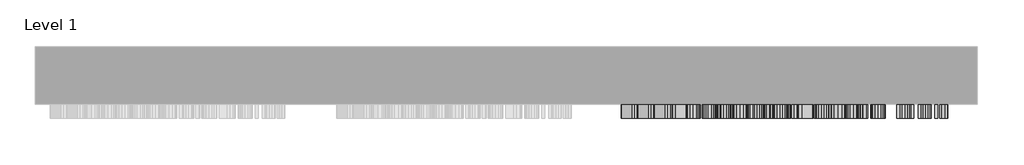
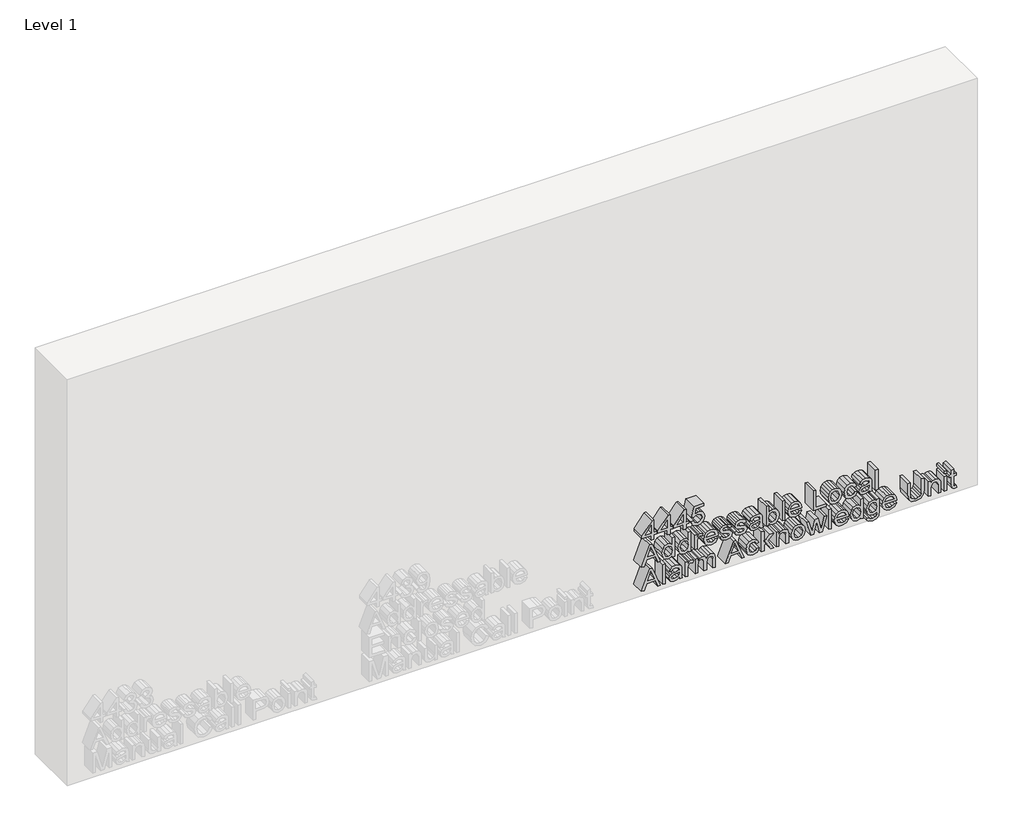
# One storey, part 3 of 3: 1 proxy.
"""IFC4 building model written with IfcOpenShell, lengths in millimetres."""

from ifc_helpers import new_model, si_unit, frame, origin, place, context, project, spatial, polyline, outline, extrude, element, save

model = new_model("IFC4")

# Units and contexts
model_context = context("Model", 3, world=origin())
ifc_project = project(units=[si_unit("LENGTHUNIT", "METRE", prefix="MILLI")], contexts=[model_context])

# Site, building, storey
site = spatial("IfcSite", under=ifc_project)
building = spatial("IfcBuilding", under=site)
storey = spatial("IfcBuildingStorey", under=building, Name="Level 1", Elevation=0.0)

# Proxy
placement = place(None, origin())
element("IfcBuildingElementProxy", 1, Name="75 mm Arial", ObjectType="75 mm Arial", at=placement, inside=storey, context=model_context, shape_type="SweptSolid", body=[
    extrude(outline(polyline([(239.699397, -2266.778732), (239.699397, -2257.3609529), (257.3577328, -2257.3609529), (257.3577328, -2247.9431738), (266.7755119, -2247.9431738), (266.7755119, -2257.3609529), (313.8644073, -2257.3609529), (313.8644073, -2264.4242872), (266.7755119, -2300.9181811), (257.3577328, -2300.9181811), (257.3577328, -2266.778732), (239.699397, -2266.778732)]), holes=[polyline([(266.7755119, -2266.778732), (266.7755119, -2289.3298983), (295.8749777, -2266.778732), (266.7755119, -2266.778732)])]), frame((0.0, 3097.8550077, 0.0), z_axis=(0.0, 1.0, 0.0), x_axis=(0.0, 0.0, 1.0)), (0.0, 0.0, 1.0), 50.0),
    extrude(outline(polyline([(239.699397, -2209.0948352), (239.699397, -2199.6770561), (257.3577328, -2199.6770561), (257.3577328, -2190.259277), (266.7755119, -2190.259277), (266.7755119, -2199.6770561), (313.8644073, -2199.6770561), (313.8644073, -2206.7403904), (266.7755119, -2243.2342843), (257.3577328, -2243.2342843), (257.3577328, -2209.0948352), (239.699397, -2209.0948352)]), holes=[polyline([(266.7755119, -2209.0948352), (266.7755119, -2231.6460015), (295.8749777, -2209.0948352), (266.7755119, -2209.0948352)])]), frame((0.0, 3097.8550077, 0.0), z_axis=(0.0, 1.0, 0.0), x_axis=(0.0, 0.0, 1.0)), (0.0, 0.0, 1.0), 50.0),
    extrude(outline(polyline([(239.699397, -2151.4109383), (239.699397, -2141.9931592), (257.3577328, -2141.9931592), (257.3577328, -2132.5753802), (266.7755119, -2132.5753802), (266.7755119, -2141.9931592), (313.8644073, -2141.9931592), (313.8644073, -2149.0564935), (266.7755119, -2185.5503875), (257.3577328, -2185.5503875), (257.3577328, -2151.4109383), (239.699397, -2151.4109383)]), holes=[polyline([(266.7755119, -2151.4109383), (266.7755119, -2173.9621046), (295.8749777, -2151.4109383), (266.7755119, -2151.4109383)])]), frame((0.0, 3097.8550077, 0.0), z_axis=(0.0, 1.0, 0.0), x_axis=(0.0, 0.0, 1.0)), (0.0, 0.0, 1.0), 50.0),
    extrude(outline(polyline([(259.7121776, -2124.3348235), (251.0738485, -2122.0378603), (244.3255131, -2116.9863806), (239.9730093, -2109.6172444), (238.5221747, -2100.3673115), (240.7800504, -2089.2756693), (247.5536776, -2080.7959893), (255.6102933, -2076.3676098), (265.0280724, -2074.8914833), (274.6757777, -2076.5308575), (282.3921026, -2081.4489799), (287.4550785, -2088.7537367), (289.1427372, -2097.5530142), (283.6980837, -2111.3301949), (304.4466282, -2107.3018871), (304.4466282, -2078.4231505), (313.8644073, -2078.4231505), (313.8644073, -2114.9170444), (275.0160686, -2123.1576011), (273.8388462, -2113.739822), (278.0878832, -2108.4515183), (279.7249581, -2100.1833705), (275.6230739, -2088.2547968), (264.4394612, -2084.3092624), (252.4557052, -2088.5215112), (247.9399537, -2100.3305233), (251.1865123, -2110.1713666), (260.8894, -2114.9170444), (259.7121776, -2124.3348235)])), frame((0.0, 3097.8550077, 0.0), z_axis=(0.0, 1.0, 0.0), x_axis=(0.0, 0.0, 1.0)), (0.0, 0.0, 1.0), 50.0),
    extrude(outline(polyline([(148.2182837, -2302.6288324), (148.2182837, -2292.6776245), (171.7627313, -2284.0691858), (171.7627313, -2253.0383395), (148.2182837, -2244.4115067), (148.2182837, -2234.4602987), (223.5605163, -2264.5346518), (223.5605163, -2272.5544793), (148.2182837, -2302.6288324)]), holes=[polyline([(181.1805104, -2280.611095), (201.3220497, -2273.235061), (214.1427372, -2268.5445656), (199.7033689, -2263.2654589), (181.1805104, -2256.4780361), (181.1805104, -2280.611095)])]), frame((0.0, 3097.8550077, 0.0), z_axis=(0.0, 1.0, 0.0), x_axis=(0.0, 0.0, 1.0)), (0.0, 0.0, 1.0), 50.0),
    extrude(outline(polyline([(148.2182837, -2191.4364994), (148.2182837, -2182.0187203), (223.5605163, -2182.0187203), (223.5605163, -2191.4364994), (195.49112, -2191.4364994), (202.1589812, -2197.635311), (204.7249581, -2206.3173261), (201.1381087, -2218.3378703), (190.8190187, -2226.4128801), (175.8278274, -2229.1076157), (160.8458331, -2226.1829538), (150.683093, -2217.9423971), (147.0410613, -2206.2805379), (149.5564544, -2197.6675007), (157.1026338, -2191.4364994), (148.2182837, -2191.4364994)]), holes=[polyline([(175.8646156, -2219.6898366), (190.6258807, -2215.7167111), (195.307179, -2205.8022913), (190.4327426, -2195.5843689), (175.1472457, -2191.4364994), (161.0665623, -2195.5107925), (156.4588403, -2205.4160152), (161.2872915, -2215.4407996), (175.8646156, -2219.6898366)])]), frame((0.0, 3097.8550077, 0.0), z_axis=(0.0, 1.0, 0.0), x_axis=(0.0, 0.0, 1.0)), (0.0, 0.0, 1.0), 50.0),
    extrude(outline(polyline([(148.2182837, -2133.7526025), (148.2182837, -2124.3348235), (223.5605163, -2124.3348235), (223.5605163, -2133.7526025), (195.49112, -2133.7526025), (202.1589812, -2139.9514142), (204.7249581, -2148.6334292), (201.1381087, -2160.6539734), (190.8190187, -2168.7289832), (175.8278274, -2171.4237188), (160.8458331, -2168.499057), (150.683093, -2160.2585003), (147.0410613, -2148.596641), (149.5564544, -2139.9836038), (157.1026338, -2133.7526025), (148.2182837, -2133.7526025)]), holes=[polyline([(175.8646156, -2162.0059398), (190.6258807, -2158.0328142), (195.307179, -2148.1183945), (190.4327426, -2137.900472), (175.1472457, -2133.7526025), (161.0665623, -2137.8268956), (156.4588403, -2147.7321184), (161.2872915, -2157.7569027), (175.8646156, -2162.0059398)])]), frame((0.0, 3097.8550077, 0.0), z_axis=(0.0, 1.0, 0.0), x_axis=(0.0, 0.0, 1.0)), (0.0, 0.0, 1.0), 50.0),
    extrude(outline(polyline([(148.2182837, -2110.2081548), (148.2182837, -2100.7903758), (177.2993554, -2100.7903758), (188.299027, -2099.2636655), (193.449375, -2095.8699541), (195.307179, -2090.5448622), (193.3757986, -2083.9229863), (201.8186904, -2080.7775952), (204.7249581, -2090.2321625), (202.9039422, -2096.1182744), (195.3623613, -2101.9675982), (203.5477357, -2101.9675982), (203.5477357, -2110.2081548), (148.2182837, -2110.2081548)])), frame((0.0, 3097.8550077, 0.0), z_axis=(0.0, 1.0, 0.0), x_axis=(0.0, 0.0, 1.0)), (0.0, 0.0, 1.0), 50.0),
    extrude(outline(polyline([(164.699397, -2036.1535092), (158.427009, -2042.2235621), (156.4588403, -2051.4574002), (160.7078774, -2063.588309), (172.9399537, -2069.0053714), (172.9399537, -2026.6805478), (175.4783395, -2026.6253655), (187.825379, -2028.4118925), (197.0546185, -2033.7714733), (202.8073732, -2041.9453514), (204.7249581, -2052.1747701), (202.8027747, -2062.7329834), (197.0362244, -2071.1206929), (187.7885908, -2076.5975361), (175.4231572, -2078.4231505), (163.4600946, -2076.6159302), (154.4998687, -2071.1942693), (148.9057631, -2062.6915966), (147.0410613, -2051.6413412), (151.3636747, -2035.555701), (163.5221747, -2026.9196711), (164.699397, -2036.1535092)]), holes=[polyline([(182.3577328, -2069.0053714), (191.7847089, -2063.8090382), (195.307179, -2052.2115583), (190.8925951, -2039.8139351), (182.3577328, -2036.0431446), (182.3577328, -2069.0053714)])]), frame((0.0, 3097.8550077, 0.0), z_axis=(0.0, 1.0, 0.0), x_axis=(0.0, 0.0, 1.0)), (0.0, 0.0, 1.0), 50.0),
    extrude(outline(polyline([(164.699397, -2020.7392536), (151.4924334, -2013.5287665), (147.0410613, -1997.1028354), (149.3495208, -1985.4409762), (155.8886233, -1977.5591044), (164.9017321, -1974.8275806), (173.0871065, -1977.1544342), (178.1086958, -1983.5739751), (182.5416738, -1997.397141), (184.5466307, -2005.508939), (186.625164, -2009.0222121), (189.3658848, -2010.1442522), (193.5229514, -2007.4403195), (195.307179, -1998.4272106), (193.4401779, -1990.1406687), (188.2438447, -1986.5998045), (189.4210671, -1977.1820254), (197.873156, -1980.4193869), (202.8763511, -1987.7034505), (204.7249581, -1999.1629746), (203.5753269, -2007.2655755), (200.7886208, -2013.252855), (195.4267407, -2017.8697741), (188.4093916, -2019.5620312), (180.8126284, -2017.4559068), (175.4323543, -2011.2662922), (170.8246323, -1997.0844413), (168.1390937, -1987.3907508), (163.9084508, -1984.2453597), (158.6845264, -1987.3723567), (156.4588403, -1996.9740767), (158.8868615, -2006.9620729), (165.8766194, -2011.3214745), (164.699397, -2020.7392536)])), frame((0.0, 3097.8550077, 0.0), z_axis=(0.0, 1.0, 0.0), x_axis=(0.0, 0.0, 1.0)), (0.0, 0.0, 1.0), 50.0),
    extrude(outline(polyline([(164.699397, -1967.7642463), (151.4924334, -1960.5537592), (147.0410613, -1944.1278281), (149.3495208, -1932.4659689), (155.8886233, -1924.5840971), (164.9017321, -1921.8525733), (173.0871065, -1924.1794269), (178.1086958, -1930.5989678), (182.5416738, -1944.4221337), (184.5466307, -1952.5339317), (186.625164, -1956.0472048), (189.3658848, -1957.1692449), (193.5229514, -1954.4653122), (195.307179, -1945.4522033), (193.4401779, -1937.1656614), (188.2438447, -1933.6247972), (189.4210671, -1924.2070181), (197.873156, -1927.4443796), (202.8763511, -1934.7284431), (204.7249581, -1946.1879673), (203.5753269, -1954.2905682), (200.7886208, -1960.2778477), (195.4267407, -1964.8947668), (188.4093916, -1966.5870239), (180.8126284, -1964.4808995), (175.4323543, -1958.2912849), (170.8246323, -1944.109434), (168.1390937, -1934.4157435), (163.9084508, -1931.2703524), (158.6845264, -1934.3973494), (156.4588403, -1943.9990694), (158.8868615, -1953.9870656), (165.8766194, -1958.3464672), (164.699397, -1967.7642463)])), frame((0.0, 3097.8550077, 0.0), z_axis=(0.0, 1.0, 0.0), x_axis=(0.0, 0.0, 1.0)), (0.0, 0.0, 1.0), 50.0),
    extrude(outline(polyline([(155.281618, -1875.9409003), (148.2182837, -1873.5864555), (148.2182837, -1864.1686765), (156.1369436, -1866.0448746), (172.4984953, -1866.5231212), (184.2155369, -1866.5231212), (192.4560936, -1866.9829737), (198.8480432, -1869.8708474), (203.051095, -1876.3179794), (204.7249581, -1887.7315183), (202.8303658, -1900.1567327), (197.4408946, -1908.3605011), (188.2438447, -1912.4347942), (187.0666223, -1903.0170152), (193.4953602, -1898.4736725), (195.307179, -1888.9455288), (192.5848523, -1878.5344684), (185.6318826, -1875.9409003), (183.5349552, -1875.9960826), (180.2975936, -1892.3300432), (178.881248, -1900.4786294), (175.7910392, -1907.0729142), (170.3831739, -1911.8093948), (162.9335635, -1913.6120166), (151.5108275, -1908.8387477), (147.0410613, -1895.1627346), (148.8988653, -1885.0735708), (155.281618, -1875.9409003)]), holes=[polyline([(174.1171761, -1875.9409003), (171.4500317, -1875.9960826), (164.1659681, -1877.4860047), (158.7121176, -1883.629634), (156.4588403, -1893.1577777), (158.5005854, -1901.3891373), (163.5957511, -1904.1942375), (167.2193887, -1902.9066506), (169.7025922, -1899.2370277), (171.2293025, -1891.1344267), (174.1171761, -1875.9409003)])]), frame((0.0, 3097.8550077, 0.0), z_axis=(0.0, 1.0, 0.0), x_axis=(0.0, 0.0, 1.0)), (0.0, 0.0, 1.0), 50.0),
    extrude(outline(polyline([(148.2182837, -1844.1558959), (157.0290574, -1844.1558959), (149.5380603, -1837.7961359), (147.0410613, -1829.422222), (148.9770403, -1820.6459372), (154.7849773, -1813.2262172), (164.138377, -1808.170139), (176.7107442, -1806.4847796), (187.9403421, -1808.1126575), (196.9074657, -1812.6100148), (202.674016, -1819.9308666), (204.7249581, -1829.3670397), (202.4486883, -1837.5616112), (195.6198787, -1844.1558959), (223.5605163, -1844.1558959), (223.5605163, -1853.573675), (148.2182837, -1853.573675), (148.2182837, -1844.1558959)]), holes=[polyline([(176.2692858, -1844.1558959), (190.4143485, -1839.9068589), (195.307179, -1829.8268922), (190.5798954, -1819.9768518), (175.938192, -1815.9025587), (161.3516709, -1820.1515958), (156.4588403, -1830.2315624), (158.1189079, -1836.6465047), (163.0991104, -1841.580722), (176.2692858, -1844.1558959)])]), frame((0.0, 3097.8550077, 0.0), z_axis=(0.0, 1.0, 0.0), x_axis=(0.0, 0.0, 1.0)), (0.0, 0.0, 1.0), 50.0),
    extrude(outline(polyline([(-1786.4719991, 3097.8550077), (-1795.8897782, 3097.8550077), (-1795.8897782, 3147.8550077), (-1786.4719991, 3147.8550077), (-1786.4719991, 3097.8550077)])), frame((0.0, 0.0, 148.2182837), z_axis=(0.0, 0.0, 1.0), x_axis=(1.0, 0.0, 0.0)), (0.0, 0.0, 1.0), 75.3422326),
    extrude(outline(polyline([(164.699397, -1733.6073564), (158.427009, -1739.6774093), (156.4588403, -1748.9112474), (160.7078774, -1761.0421562), (172.9399537, -1766.4592186), (172.9399537, -1724.134395), (175.4783395, -1724.0792127), (187.825379, -1725.8657396), (197.0546185, -1731.2253205), (202.8073732, -1739.3991985), (204.7249581, -1749.6286173), (202.8027747, -1760.1868305), (197.0362244, -1768.57454), (187.7885908, -1774.0513832), (175.4231572, -1775.8769976), (163.4600946, -1774.0697773), (154.4998687, -1768.6481164), (148.9057631, -1760.1454438), (147.0410613, -1749.0951884), (151.3636747, -1733.0095481), (163.5221747, -1724.3735183), (164.699397, -1733.6073564)]), holes=[polyline([(182.3577328, -1766.4592186), (191.7847089, -1761.2628854), (195.307179, -1749.6654055), (190.8925951, -1737.2677822), (182.3577328, -1733.4969918), (182.3577328, -1766.4592186)])]), frame((0.0, 3097.8550077, 0.0), z_axis=(0.0, 1.0, 0.0), x_axis=(0.0, 0.0, 1.0)), (0.0, 0.0, 1.0), 50.0),
    extrude(outline(polyline([(148.2182837, -1684.0536516), (148.2182837, -1636.9647563), (157.6360627, -1636.9647563), (157.6360627, -1674.6358726), (223.5605163, -1674.6358726), (223.5605163, -1684.0536516), (148.2182837, -1684.0536516)])), frame((0.0, 3097.8550077, 0.0), z_axis=(0.0, 1.0, 0.0), x_axis=(0.0, 0.0, 1.0)), (0.0, 0.0, 1.0), 50.0),
    extrude(outline(polyline([(175.8830097, -1629.9014219), (163.5405688, -1628.1930699), (154.4722776, -1623.0680139), (148.8988653, -1615.1746458), (147.0410613, -1605.1613578), (150.4163786, -1592.4050496), (159.898537, -1583.5115024), (176.6555619, -1580.4580818), (188.3840997, -1582.1848279), (197.2661507, -1587.3650663), (202.8602563, -1595.2676314), (204.7249581, -1605.1613578), (203.1936493, -1614.2020578), (198.5997229, -1621.7528358), (189.2233305, -1627.8642754), (175.8830097, -1629.9014219)]), holes=[polyline([(175.9014038, -1620.4836429), (190.4787279, -1616.1242412), (195.307179, -1605.1613578), (190.4603338, -1594.2628537), (176.1957094, -1589.8758609), (161.3332768, -1594.2352625), (156.4588403, -1605.1613578), (161.3056856, -1616.1242412), (175.9014038, -1620.4836429)])]), frame((0.0, 3097.8550077, 0.0), z_axis=(0.0, 1.0, 0.0), x_axis=(0.0, 0.0, 1.0)), (0.0, 0.0, 1.0), 50.0),
    extrude(outline(polyline([(168.2310642, -1534.5464088), (159.346714, -1539.0621603), (156.4588403, -1547.9373134), (161.0849564, -1558.6886647), (175.938192, -1562.799746), (190.6534718, -1558.5966942), (195.307179, -1547.679796), (192.9435372, -1540.0922299), (185.8894, -1535.7236312), (187.0666223, -1526.3058521), (200.1264332, -1533.4335658), (204.7249581, -1547.7533724), (201.377232, -1560.5648629), (191.3248564, -1569.3388485), (175.6806746, -1572.2175251), (163.455496, -1570.5321657), (154.4446864, -1565.4760875), (148.8919676, -1557.6425003), (147.0410613, -1547.6246137), (152.3477591, -1532.6886047), (167.0538418, -1525.1286297), (168.2310642, -1534.5464088)])), frame((0.0, 3097.8550077, 0.0), z_axis=(0.0, 1.0, 0.0), x_axis=(0.0, 0.0, 1.0)), (0.0, 0.0, 1.0), 50.0),
    extrude(outline(polyline([(155.281618, -1481.5714015), (148.2182837, -1479.2169567), (148.2182837, -1469.7991776), (156.1369436, -1471.6753758), (172.4984953, -1472.1536224), (184.2155369, -1472.1536224), (192.4560936, -1472.6134749), (198.8480432, -1475.5013486), (203.051095, -1481.9484805), (204.7249581, -1493.3620194), (202.8303658, -1505.7872338), (197.4408946, -1513.9910023), (188.2438447, -1518.0652954), (187.0666223, -1508.6475163), (193.4953602, -1504.1041737), (195.307179, -1494.57603), (192.5848523, -1484.1649696), (185.6318826, -1481.5714015), (183.5349552, -1481.6265838), (180.2975936, -1497.9605444), (178.881248, -1506.1091306), (175.7910392, -1512.7034153), (170.3831739, -1517.439896), (162.9335635, -1519.2425178), (151.5108275, -1514.4692489), (147.0410613, -1500.7932357), (148.8988653, -1490.704072), (155.281618, -1481.5714015)]), holes=[polyline([(174.1171761, -1481.5714015), (171.4500317, -1481.6265838), (164.1659681, -1483.1165059), (158.7121176, -1489.2601352), (156.4588403, -1498.7882789), (158.5005854, -1507.0196385), (163.5957511, -1509.8247387), (167.2193887, -1508.5371517), (169.7025922, -1504.8675288), (171.2293025, -1496.7649279), (174.1171761, -1481.5714015)])]), frame((0.0, 3097.8550077, 0.0), z_axis=(0.0, 1.0, 0.0), x_axis=(0.0, 0.0, 1.0)), (0.0, 0.0, 1.0), 50.0),
    extrude(outline(polyline([(-1449.7863971, 3097.8550077), (-1459.2041762, 3097.8550077), (-1459.2041762, 3147.8550077), (-1449.7863971, 3147.8550077), (-1449.7863971, 3097.8550077)])), frame((0.0, 0.0, 148.2182837), z_axis=(0.0, 0.0, 1.0), x_axis=(1.0, 0.0, 0.0)), (0.0, 0.0, 1.0), 75.3422326),
    extrude(outline(polyline([(56.7371703, -2302.6288324), (56.7371703, -2292.6776245), (80.281618, -2284.0691858), (80.281618, -2253.0383395), (56.7371703, -2244.4115067), (56.7371703, -2234.4602987), (132.0794029, -2264.5346518), (132.0794029, -2272.5544793), (56.7371703, -2302.6288324)]), holes=[polyline([(89.699397, -2280.611095), (109.8409363, -2273.235061), (122.6616238, -2268.5445656), (108.2222555, -2263.2654589), (89.699397, -2256.4780361), (89.699397, -2280.611095)])]), frame((0.0, 3097.8550077, 0.0), z_axis=(0.0, 1.0, 0.0), x_axis=(0.0, 0.0, 1.0)), (0.0, 0.0, 1.0), 50.0),
    extrude(outline(polyline([(-2216.1581695, 3097.8550077), (-2225.5759485, 3097.8550077), (-2225.5759485, 3147.8550077), (-2216.1581695, 3147.8550077), (-2216.1581695, 3097.8550077)])), frame((0.0, 0.0, 56.7371703), z_axis=(0.0, 0.0, 1.0), x_axis=(1.0, 0.0, 0.0)), (0.0, 0.0, 1.0), 75.3422326),
    extrude(outline(polyline([(63.8005046, -2166.7148293), (56.7371703, -2164.3603845), (56.7371703, -2154.9426055), (64.6558302, -2156.8188036), (81.017382, -2157.2970502), (92.7344235, -2157.2970502), (100.9749802, -2157.7569027), (107.3669299, -2160.6447764), (111.5699817, -2167.0919084), (113.2438447, -2178.5054473), (111.3492525, -2190.9306616), (105.9597812, -2199.1344301), (96.7627313, -2203.2087232), (95.585509, -2193.7909442), (102.0142468, -2189.2476015), (103.8260657, -2179.7194578), (101.1037389, -2169.3083974), (94.1507692, -2166.7148293), (92.0538418, -2166.7700116), (88.8164803, -2183.1039722), (87.4001346, -2191.2525584), (84.3099258, -2197.8468431), (78.9020605, -2202.5833238), (71.4524501, -2204.3859456), (60.0297141, -2199.6126767), (55.5599479, -2185.9366636), (57.417752, -2175.8474998), (63.8005046, -2166.7148293)]), holes=[polyline([(82.6360627, -2166.7148293), (79.9689183, -2166.7700116), (72.6848548, -2168.2599337), (67.2310042, -2174.403563), (64.977727, -2183.9317067), (67.019472, -2192.1630663), (72.1146377, -2194.9681665), (75.7382753, -2193.6805796), (78.2214788, -2190.0109567), (79.7481891, -2181.9083557), (82.6360627, -2166.7148293)])]), frame((0.0, 3097.8550077, 0.0), z_axis=(0.0, 1.0, 0.0), x_axis=(0.0, 0.0, 1.0)), (0.0, 0.0, 1.0), 50.0),
    extrude(outline(polyline([(56.7371703, -2144.347604), (56.7371703, -2134.9298249), (85.818242, -2134.9298249), (96.8179136, -2133.4031146), (101.9682616, -2130.0094032), (103.8260657, -2124.6843114), (101.8946852, -2118.0624354), (110.337577, -2114.9170444), (113.2438447, -2124.3716117), (111.4228289, -2130.2577236), (103.881248, -2136.1070473), (112.0666223, -2136.1070473), (112.0666223, -2144.347604), (56.7371703, -2144.347604)])), frame((0.0, 3097.8550077, 0.0), z_axis=(0.0, 1.0, 0.0), x_axis=(0.0, 0.0, 1.0)), (0.0, 0.0, 1.0), 50.0),
    extrude(outline(polyline([(56.7371703, -2109.0309325), (56.7371703, -2099.6131534), (84.6410196, -2099.6131534), (95.8798146, -2098.1784136), (101.8027147, -2093.5431005), (103.8260657, -2086.5717367), (100.7910392, -2079.4256289), (91.6675657, -2077.2459281), (56.7371703, -2077.2459281), (56.7371703, -2067.828149), (87.9703517, -2067.828149), (100.0552752, -2064.140132), (103.8260657, -2054.8787028), (102.3545377, -2049.4984286), (98.4825797, -2046.3346434), (90.619102, -2045.4609237), (56.7371703, -2045.4609237), (56.7371703, -2036.0431446), (94.665804, -2036.0431446), (108.691305, -2040.356561), (113.2438447, -2052.6714108), (110.5077224, -2061.9512341), (102.2993554, -2069.299677), (110.3651681, -2074.4868131), (113.2438447, -2083.9229863), (110.4203504, -2093.1384303), (102.961543, -2099.6131534), (112.0666223, -2099.6131534), (112.0666223, -2109.0309325), (56.7371703, -2109.0309325)])), frame((0.0, 3097.8550077, 0.0), z_axis=(0.0, 1.0, 0.0), x_axis=(0.0, 0.0, 1.0)), (0.0, 0.0, 1.0), 50.0),
    extrude(outline(polyline([(56.7371703, -2000.0826796), (56.7371703, -1990.1314716), (80.281618, -1981.5230329), (80.281618, -1950.4921866), (56.7371703, -1941.8653539), (56.7371703, -1931.9141459), (132.0794029, -1961.988499), (132.0794029, -1970.0083265), (56.7371703, -2000.0826796)]), holes=[polyline([(89.699397, -1978.0649422), (109.8409363, -1970.6889082), (122.6616238, -1965.9984127), (108.2222555, -1960.7193061), (89.699397, -1953.9318833), (89.699397, -1978.0649422)])]), frame((0.0, 3097.8550077, 0.0), z_axis=(0.0, 1.0, 0.0), x_axis=(0.0, 0.0, 1.0)), (0.0, 0.0, 1.0), 50.0),
    extrude(outline(polyline([(76.7499508, -1887.7131242), (67.8656006, -1892.2288757), (64.977727, -1901.1040288), (69.6038431, -1911.8553801), (84.4570786, -1915.9664614), (99.1723584, -1911.7634096), (103.8260657, -1900.8465114), (101.4624238, -1893.2589452), (94.4082866, -1888.8903465), (95.585509, -1879.4725675), (108.6453198, -1886.6002811), (113.2438447, -1900.9200878), (109.8961186, -1913.7315783), (99.8437431, -1922.5055639), (84.1995612, -1925.3842405), (71.9743827, -1923.6988811), (62.963573, -1918.6428029), (57.4108542, -1910.8092157), (55.5599479, -1900.7913291), (60.8666457, -1885.8553201), (75.5727284, -1878.2953451), (76.7499508, -1887.7131242)])), frame((0.0, 3097.8550077, 0.0), z_axis=(0.0, 1.0, 0.0), x_axis=(0.0, 0.0, 1.0)), (0.0, 0.0, 1.0), 50.0),
    extrude(outline(polyline([(56.7371703, -1870.0547884), (56.7371703, -1860.6370093), (78.9572428, -1860.6370093), (84.7881724, -1854.6221387), (56.7371703, -1836.3200094), (56.7371703, -1825.3203378), (91.3364719, -1847.8715041), (112.0666223, -1826.4975602), (112.0666223, -1839.5205828), (91.5939893, -1860.6370093), (132.0794029, -1860.6370093), (132.0794029, -1870.0547884), (56.7371703, -1870.0547884)])), frame((0.0, 3097.8550077, 0.0), z_axis=(0.0, 1.0, 0.0), x_axis=(0.0, 0.0, 1.0)), (0.0, 0.0, 1.0), 50.0),
    extrude(outline(polyline([(56.7371703, -1817.0797811), (56.7371703, -1807.662002), (86.0941535, -1807.662002), (100.1288516, -1803.3669797), (103.8260657, -1793.1490573), (102.1797937, -1786.6835312), (97.7744068, -1782.8483614), (89.4418796, -1781.7631096), (56.7371703, -1781.7631096), (56.7371703, -1772.3453305), (90.7110725, -1772.3453305), (99.8161519, -1772.8419712), (106.7415305, -1775.6654655), (111.45042, -1781.7355184), (113.2438447, -1790.6290656), (111.0181587, -1800.460712), (104.3411004, -1807.662002), (112.0666223, -1807.662002), (112.0666223, -1817.0797811), (56.7371703, -1817.0797811)])), frame((0.0, 3097.8550077, 0.0), z_axis=(0.0, 1.0, 0.0), x_axis=(0.0, 0.0, 1.0)), (0.0, 0.0, 1.0), 50.0),
    extrude(outline(polyline([(84.4018963, -1761.750329), (72.0594554, -1760.041977), (62.9911642, -1754.916921), (57.417752, -1747.0235529), (55.5599479, -1737.0102648), (58.9352652, -1724.2539567), (68.4174236, -1715.3604094), (85.1744485, -1712.3069889), (96.9029864, -1714.033735), (105.7850373, -1719.2139733), (111.3791429, -1727.1165384), (113.2438447, -1737.0102648), (111.7125359, -1746.0509649), (107.1186095, -1753.6017428), (97.7422172, -1759.7131825), (84.4018963, -1761.750329)]), holes=[polyline([(84.4202904, -1752.3325499), (98.9976145, -1747.9731483), (103.8260657, -1737.0102648), (98.9792204, -1726.1117607), (84.714596, -1721.7247679), (69.8521634, -1726.0841696), (64.977727, -1737.0102648), (69.8245723, -1747.9731483), (84.4202904, -1752.3325499)])]), frame((0.0, 3097.8550077, 0.0), z_axis=(0.0, 1.0, 0.0), x_axis=(0.0, 0.0, 1.0)), (0.0, 0.0, 1.0), 50.0),
    extrude(outline(polyline([(56.7371703, -1692.5333316), (56.7371703, -1681.0186252), (99.3011171, -1671.6928166), (89.1843622, -1669.5958892), (56.7371703, -1662.367008), (56.7371703, -1650.9810603), (112.0666223, -1634.0217003), (112.0666223, -1643.8441496), (80.0057065, -1653.4090814), (69.3923109, -1656.3889256), (79.4538835, -1658.4674589), (112.0666223, -1666.0274339), (112.0666223, -1677.2478347), (79.361913, -1684.8445979), (68.2518767, -1687.1806486), (79.7849773, -1690.0317341), (112.0666223, -1699.5782718), (112.0666223, -1709.3639329), (56.7371703, -1692.5333316)])), frame((0.0, 3097.8550077, 0.0), z_axis=(0.0, 1.0, 0.0), x_axis=(0.0, 0.0, 1.0)), (0.0, 0.0, 1.0), 50.0),
    extrude(outline(polyline([(-1618.1291981, 3097.8550077), (-1627.5469772, 3097.8550077), (-1627.5469772, 3147.8550077), (-1618.1291981, 3147.8550077), (-1618.1291981, 3097.8550077)])), frame((0.0, 0.0, 56.7371703), z_axis=(0.0, 0.0, 1.0), x_axis=(1.0, 0.0, 0.0)), (0.0, 0.0, 1.0), 75.3422326),
    extrude(outline(polyline([(73.2182837, -1565.2645554), (66.9458956, -1571.3346083), (64.977727, -1580.5684464), (69.226764, -1592.6993552), (81.4588403, -1598.1164176), (81.4588403, -1555.791594), (83.9972261, -1555.7364117), (96.3442656, -1557.5229387), (105.5735051, -1562.8825195), (111.3262598, -1571.0563976), (113.2438447, -1581.2858163), (111.3216613, -1591.8440295), (105.555111, -1600.231739), (96.3074774, -1605.7085822), (83.9420438, -1607.5341966), (71.9789812, -1605.7269763), (63.0187553, -1600.3053154), (57.4246498, -1591.8026428), (55.5599479, -1580.7523874), (59.8825613, -1564.6667472), (72.0410613, -1556.0307173), (73.2182837, -1565.2645554)]), holes=[polyline([(90.8766194, -1598.1164176), (100.3035956, -1592.9200844), (103.8260657, -1581.3226045), (99.4114817, -1568.9249812), (90.8766194, -1565.1541908), (90.8766194, -1598.1164176)])]), frame((0.0, 3097.8550077, 0.0), z_axis=(0.0, 1.0, 0.0), x_axis=(0.0, 0.0, 1.0)), (0.0, 0.0, 1.0), 50.0),
    extrude(outline(polyline([(56.7371703, -1512.1791835), (56.7371703, -1502.7614044), (132.0794029, -1502.7614044), (132.0794029, -1512.1791835), (104.0100067, -1512.1791835), (110.6778678, -1518.3779951), (113.2438447, -1527.0600102), (109.6569953, -1539.0805544), (99.3379053, -1547.1555642), (84.346714, -1549.8502998), (69.3647198, -1546.9256379), (59.2019796, -1538.6850812), (55.5599479, -1527.023222), (58.075341, -1518.4101848), (65.6215205, -1512.1791835), (56.7371703, -1512.1791835)]), holes=[polyline([(84.3835022, -1540.4325207), (99.1447673, -1536.4593952), (103.8260657, -1526.5449754), (98.9516292, -1516.327053), (83.6661323, -1512.1791835), (69.585449, -1516.2534766), (64.977727, -1526.1586993), (69.8061782, -1536.1834837), (84.3835022, -1540.4325207)])]), frame((0.0, 3097.8550077, 0.0), z_axis=(0.0, 1.0, 0.0), x_axis=(0.0, 0.0, 1.0)), (0.0, 0.0, 1.0), 50.0),
    extrude(outline(polyline([(52.0282807, -1490.9891806), (44.2912625, -1489.6487105), (38.7753319, -1485.2226303), (34.369945, -1469.5600543), (37.4969419, -1455.8104648), (46.0042131, -1447.6526815), (64.2971453, -1445.0775076), (112.0666223, -1445.0775076), (112.0666223, -1454.4952866), (105.003288, -1454.4952866), (111.1837056, -1461.2689139), (113.2438447, -1469.6704189), (109.601813, -1481.672569), (99.273526, -1489.4716673), (84.6778078, -1492.166403), (74.0000329, -1490.6649846), (64.9593329, -1486.1607294), (58.7927109, -1478.9203519), (56.7371703, -1469.2105665), (58.5030039, -1461.1263596), (63.8005046, -1454.4952866), (52.819227, -1455.1390801), (46.1605629, -1459.7376051), (43.787724, -1469.3761133), (45.8846514, -1478.5179809), (50.8510584, -1481.5714015), (52.0282807, -1490.9891806)]), holes=[polyline([(85.3216013, -1482.7486239), (99.1631614, -1478.6743308), (103.8260657, -1468.7875022), (99.089585, -1458.6891414), (85.0456898, -1454.4952866), (70.7166861, -1458.5695797), (66.1549494, -1468.6403494), (70.7442772, -1478.7295131), (85.3216013, -1482.7486239)])]), frame((0.0, 3097.8550077, 0.0), z_axis=(0.0, 1.0, 0.0), x_axis=(0.0, 0.0, 1.0)), (0.0, 0.0, 1.0), 50.0),
    extrude(outline(polyline([(73.2182837, -1392.2128649), (66.9458956, -1398.2829178), (64.977727, -1407.5167559), (69.226764, -1419.6476647), (81.4588403, -1425.064727), (81.4588403, -1382.7399035), (83.9972261, -1382.6847212), (96.3442656, -1384.4712481), (105.5735051, -1389.8308289), (111.3262598, -1398.004707), (113.2438447, -1408.2341258), (111.3216613, -1418.792339), (105.555111, -1427.1800485), (96.3074774, -1432.6568917), (83.9420438, -1434.4825061), (71.9789812, -1432.6752858), (63.0187553, -1427.2536249), (57.4246498, -1418.7509523), (55.5599479, -1407.7006969), (59.8825613, -1391.6150566), (72.0410613, -1382.9790268), (73.2182837, -1392.2128649)]), holes=[polyline([(90.8766194, -1425.064727), (100.3035956, -1419.8683938), (103.8260657, -1408.270914), (99.4114817, -1395.8732907), (90.8766194, -1392.1025003), (90.8766194, -1425.064727)])]), frame((0.0, 3097.8550077, 0.0), z_axis=(0.0, 1.0, 0.0), x_axis=(0.0, 0.0, 1.0)), (0.0, 0.0, 1.0), 50.0),
    extrude(outline(polyline([(132.0794029, -1293.21582), (88.945239, -1293.21582), (77.154621, -1294.4068379), (69.9257398, -1297.9798918), (66.2147302, -1304.3488488), (64.977727, -1313.9275763), (67.4793245, -1325.0008243), (74.5886441, -1331.383577), (88.945239, -1333.241381), (132.0794029, -1333.241381), (132.0794029, -1342.6591601), (88.6141452, -1342.6591601), (69.7509959, -1339.7988776), (59.2019796, -1330.2523398), (55.5599479, -1313.0446595), (59.7446056, -1295.5702647), (70.5971244, -1286.3548207), (88.6141452, -1283.7980409), (132.0794029, -1283.7980409), (132.0794029, -1293.21582)])), frame((0.0, 3097.8550077, 0.0), z_axis=(0.0, 1.0, 0.0), x_axis=(0.0, 0.0, 1.0)), (0.0, 0.0, 1.0), 50.0),
    extrude(outline(polyline([(56.7371703, -1268.4941499), (56.7371703, -1259.0763708), (86.0941535, -1259.0763708), (100.1288516, -1254.7813485), (103.8260657, -1244.5634261), (102.1797937, -1238.0979), (97.7744068, -1234.2627302), (89.4418796, -1233.1774783), (56.7371703, -1233.1774783), (56.7371703, -1223.7596993), (90.7110725, -1223.7596993), (99.8161519, -1224.25634), (106.7415305, -1227.0798343), (111.45042, -1233.1498872), (113.2438447, -1242.0434344), (111.0181587, -1251.8750808), (104.3411004, -1259.0763708), (112.0666223, -1259.0763708), (112.0666223, -1268.4941499), (56.7371703, -1268.4941499)])), frame((0.0, 3097.8550077, 0.0), z_axis=(0.0, 1.0, 0.0), x_axis=(0.0, 0.0, 1.0)), (0.0, 0.0, 1.0), 50.0),
    extrude(outline(polyline([(-1201.392474, 3097.8550077), (-1210.810253, 3097.8550077), (-1210.810253, 3147.8550077), (-1201.392474, 3147.8550077), (-1201.392474, 3097.8550077)])), frame((0.0, 0.0, 122.6616238), z_axis=(0.0, 0.0, 1.0), x_axis=(1.0, 0.0, 0.0)), (0.0, 0.0, 1.0), 9.4177791),
    extrude(outline(polyline([(-1201.392474, 3097.8550077), (-1210.810253, 3097.8550077), (-1210.810253, 3147.8550077), (-1201.392474, 3147.8550077), (-1201.392474, 3097.8550077)])), frame((0.0, 0.0, 56.7371703), z_axis=(0.0, 0.0, 1.0), x_axis=(1.0, 0.0, 0.0)), (0.0, 0.0, 1.0), 55.3294521),
    extrude(outline(polyline([(64.5914509, -1167.2530248), (64.977727, -1171.3549091), (65.6123234, -1174.5646795), (67.3321717, -1176.1741632), (72.1882141, -1176.6708039), (102.6488433, -1176.6708039), (102.6488433, -1167.2530248), (112.0666223, -1167.2530248), (112.0666223, -1176.6708039), (131.0493333, -1176.6708039), (125.5127093, -1186.088583), (112.0666223, -1186.088583), (112.0666223, -1193.1519173), (102.6488433, -1193.1519173), (102.6488433, -1186.088583), (71.9123026, -1186.088583), (61.2253306, -1184.9481488), (57.1234464, -1181.0118114), (55.5599479, -1173.1207426), (56.4612588, -1166.0758024), (64.5914509, -1167.2530248)])), frame((0.0, 3097.8550077, 0.0), z_axis=(0.0, 1.0, 0.0), x_axis=(0.0, 0.0, 1.0)), (0.0, 0.0, 1.0), 50.0),
])

save(model, "model.ifc")
